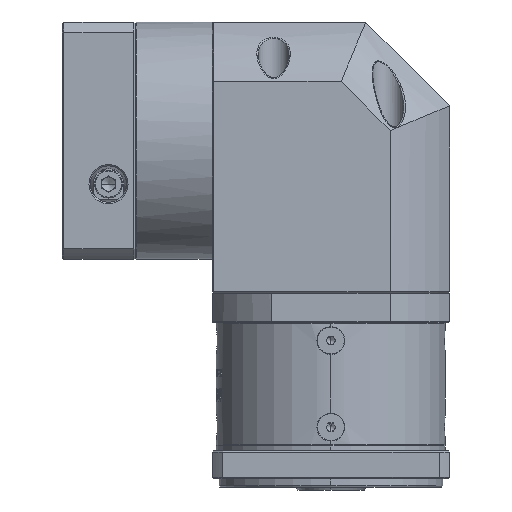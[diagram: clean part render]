
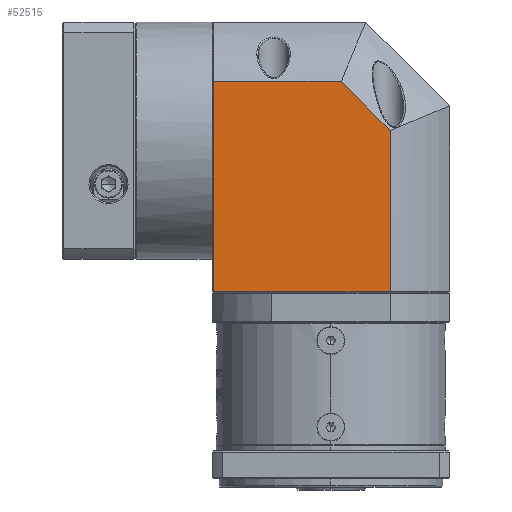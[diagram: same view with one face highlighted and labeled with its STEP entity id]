
A CAD part, left-side view. The second image highlights one B-rep face of the part: STEP entity #52515.
In plain terms, the highlighted planar face has unit normal (-1, 0, 0).
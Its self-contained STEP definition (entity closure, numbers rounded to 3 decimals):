
#4904 = CARTESIAN_POINT ( 'NONE',  ( -125.541, 29.382, 99.115 ) ) ;
#9673 = VECTOR ( 'NONE', #125729, 1000. ) ;
#15320 = EDGE_CURVE ( 'NONE', #147517, #68709, #111115, .T. ) ;
#18287 = LINE ( 'NONE', #164572, #154878 ) ;
#20139 = EDGE_CURVE ( 'NONE', #101432, #68709, #93203, .T. ) ;
#20908 = VERTEX_POINT ( 'NONE', #90070 ) ;
#28973 = ORIENTED_EDGE ( 'NONE', *, *, #83070, .F. ) ;
#31650 = EDGE_CURVE ( 'NONE', #20908, #51482, #36513, .T. ) ;
#33290 = CARTESIAN_POINT ( 'NONE',  ( -125.541, 11.852, 123.902 ) ) ;
#36513 = LINE ( 'NONE', #115908, #133666 ) ;
#43040 = CARTESIAN_POINT ( 'NONE',  ( -125.541, 11.852, 81.585 ) ) ;
#46377 = VECTOR ( 'NONE', #97437, 1000. ) ;
#47536 = DIRECTION ( 'NONE',  ( 1., 0., 0. ) ) ;
#51482 = VERTEX_POINT ( 'NONE', #90555 ) ;
#52515 = ADVANCED_FACE ( 'NONE', ( #152756 ), #79695, .F. ) ;
#58347 = EDGE_CURVE ( 'NONE', #101432, #20908, #18287, .T. ) ;
#62218 = VECTOR ( 'NONE', #95326, 1000. ) ;
#68709 = VERTEX_POINT ( 'NONE', #97008 ) ;
#77360 = ORIENTED_EDGE ( 'NONE', *, *, #20139, .T. ) ;
#79695 = PLANE ( 'NONE',  #162530 ) ;
#80770 = CARTESIAN_POINT ( 'NONE',  ( -125.541, 75.065, 23.902 ) ) ;
#82056 = CARTESIAN_POINT ( 'NONE',  ( -125.541, 75.565, 23.902 ) ) ;
#83070 = EDGE_CURVE ( 'NONE', #51482, #147517, #116731, .T. ) ;
#90070 = CARTESIAN_POINT ( 'NONE',  ( -125.541, 75.065, 99.115 ) ) ;
#90555 = CARTESIAN_POINT ( 'NONE',  ( -125.541, 29.382, 99.115 ) ) ;
#91134 = ORIENTED_EDGE ( 'NONE', *, *, #58347, .F. ) ;
#93203 = LINE ( 'NONE', #82056, #62218 ) ;
#95326 = DIRECTION ( 'NONE',  ( 0., -1., 0. ) ) ;
#97008 = CARTESIAN_POINT ( 'NONE',  ( -125.541, 11.852, 23.902 ) ) ;
#97437 = DIRECTION ( 'NONE',  ( 0., -0.707, -0.707 ) ) ;
#98721 = DIRECTION ( 'NONE',  ( 0., 0., 1. ) ) ;
#101432 = VERTEX_POINT ( 'NONE', #80770 ) ;
#111115 = LINE ( 'NONE', #33290, #9673 ) ;
#114816 = ORIENTED_EDGE ( 'NONE', *, *, #31650, .F. ) ;
#115908 = CARTESIAN_POINT ( 'NONE',  ( -125.541, 75.565, 99.115 ) ) ;
#116731 = LINE ( 'NONE', #4904, #46377 ) ;
#125729 = DIRECTION ( 'NONE',  ( 0., 0., -1. ) ) ;
#126734 = CARTESIAN_POINT ( 'NONE',  ( -125.541, 75.565, 120.402 ) ) ;
#133666 = VECTOR ( 'NONE', #169035, 1000. ) ;
#140081 = DIRECTION ( 'NONE',  ( 0., 1., 0. ) ) ;
#147517 = VERTEX_POINT ( 'NONE', #43040 ) ;
#149359 = EDGE_LOOP ( 'NONE', ( #77360, #168075, #28973, #114816, #91134 ) ) ;
#152756 = FACE_OUTER_BOUND ( 'NONE', #149359, .T. ) ;
#154878 = VECTOR ( 'NONE', #98721, 1000. ) ;
#162530 = AXIS2_PLACEMENT_3D ( 'NONE', #126734, #47536, #140081 ) ;
#164572 = CARTESIAN_POINT ( 'NONE',  ( -125.541, 75.065, 120.402 ) ) ;
#168075 = ORIENTED_EDGE ( 'NONE', *, *, #15320, .F. ) ;
#169035 = DIRECTION ( 'NONE',  ( 0., -1., 0. ) ) ;
